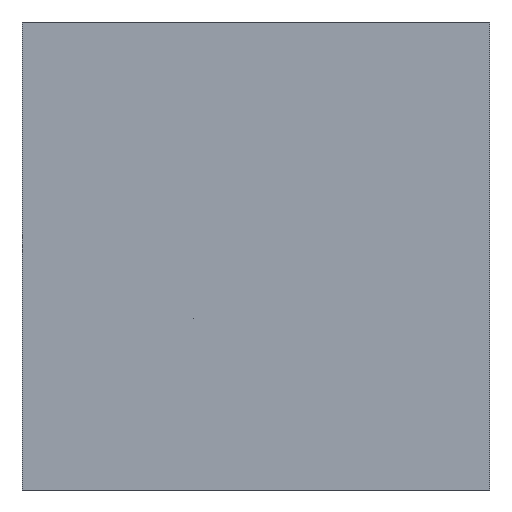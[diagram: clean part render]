
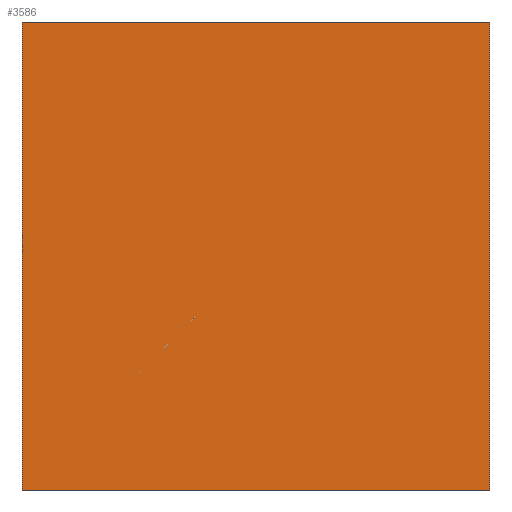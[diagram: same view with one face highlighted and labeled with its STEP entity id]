
A CAD part, front view. The second image highlights one B-rep face of the part: STEP entity #3586.
In plain terms, the highlighted planar face has unit normal (0, -1, 0).
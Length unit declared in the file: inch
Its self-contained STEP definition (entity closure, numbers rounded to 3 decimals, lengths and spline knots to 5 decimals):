
#5 = VERTEX_POINT ( 'NONE', #1761 ) ;
#275 = DIRECTION ( 'NONE',  ( -1., 0., 0. ) ) ;
#330 = ORIENTED_EDGE ( 'NONE', *, *, #2348, .T. ) ;
#509 = DIRECTION ( 'NONE',  ( 0., 0., 1. ) ) ;
#1104 = ORIENTED_EDGE ( 'NONE', *, *, #1274, .T. ) ;
#1274 = EDGE_CURVE ( 'NONE', #5, #4797, #1381, .T. ) ;
#1381 = LINE ( 'NONE', #5469, #4413 ) ;
#1553 = DIRECTION ( 'NONE',  ( 0., 1., 0. ) ) ;
#1590 = CARTESIAN_POINT ( 'NONE',  ( 12., -12.5, -12. ) ) ;
#1761 = CARTESIAN_POINT ( 'NONE',  ( 12.91905, -12.5, 12.91905 ) ) ;
#2007 = DIRECTION ( 'NONE',  ( 1., 0., 0. ) ) ;
#2093 = PLANE ( 'NONE',  #4126 ) ;
#2109 = EDGE_CURVE ( 'NONE', #4797, #2450, #5860, .T. ) ;
#2348 = EDGE_CURVE ( 'NONE', #5562, #5, #4063, .T. ) ;
#2450 = VERTEX_POINT ( 'NONE', #4926 ) ;
#2515 = CARTESIAN_POINT ( 'NONE',  ( -12.91905, -12.5, -12.91905 ) ) ;
#2579 = LINE ( 'NONE', #2515, #4245 ) ;
#2582 = EDGE_LOOP ( 'NONE', ( #3262, #3355, #330, #1104 ) ) ;
#2827 = VECTOR ( 'NONE', #509, 39.37008 ) ;
#3262 = ORIENTED_EDGE ( 'NONE', *, *, #2109, .T. ) ;
#3263 = DIRECTION ( 'NONE',  ( 0., 0., -1. ) ) ;
#3355 = ORIENTED_EDGE ( 'NONE', *, *, #5683, .T. ) ;
#3586 = ADVANCED_FACE ( 'NONE', ( #6097 ), #2093, .F. ) ;
#3601 = DIRECTION ( 'NONE',  ( 0., 0., 1. ) ) ;
#3605 = CARTESIAN_POINT ( 'NONE',  ( 12.91905, -12.5, -12.91905 ) ) ;
#3901 = VECTOR ( 'NONE', #3263, 39.37008 ) ;
#3924 = CARTESIAN_POINT ( 'NONE',  ( -12.91905, -12.5, 12.91905 ) ) ;
#4063 = LINE ( 'NONE', #5175, #2827 ) ;
#4126 = AXIS2_PLACEMENT_3D ( 'NONE', #1590, #1553, #3601 ) ;
#4245 = VECTOR ( 'NONE', #2007, 39.37008 ) ;
#4413 = VECTOR ( 'NONE', #275, 39.37008 ) ;
#4797 = VERTEX_POINT ( 'NONE', #3924 ) ;
#4926 = CARTESIAN_POINT ( 'NONE',  ( -12.91905, -12.5, -12.91905 ) ) ;
#5175 = CARTESIAN_POINT ( 'NONE',  ( 12.91905, -12.5, -12.91905 ) ) ;
#5469 = CARTESIAN_POINT ( 'NONE',  ( -12.91905, -12.5, 12.91905 ) ) ;
#5562 = VERTEX_POINT ( 'NONE', #3605 ) ;
#5683 = EDGE_CURVE ( 'NONE', #2450, #5562, #2579, .T. ) ;
#5757 = CARTESIAN_POINT ( 'NONE',  ( -12.91905, -12.5, -12.91905 ) ) ;
#5860 = LINE ( 'NONE', #5757, #3901 ) ;
#6097 = FACE_OUTER_BOUND ( 'NONE', #2582, .T. ) ;
